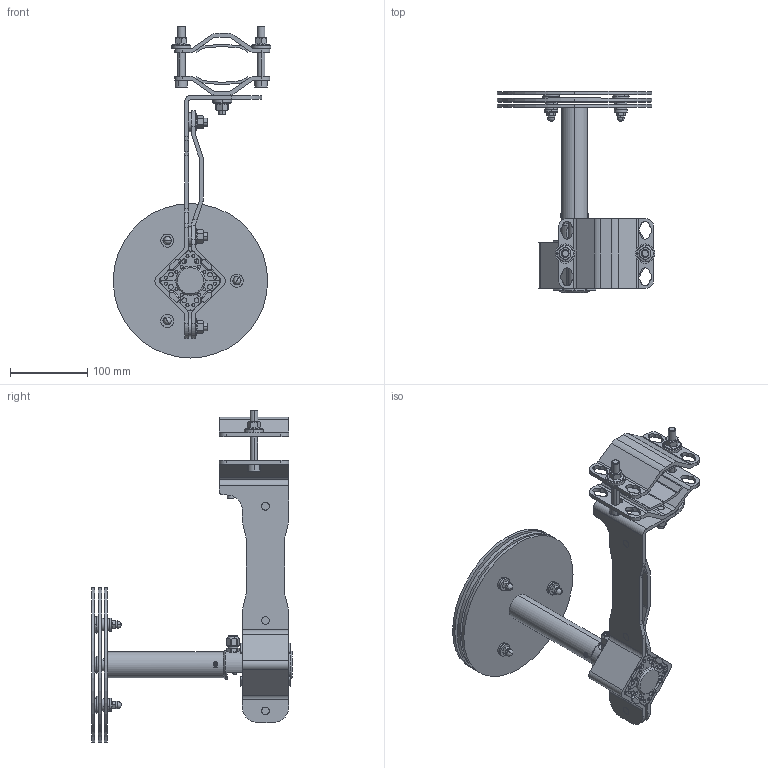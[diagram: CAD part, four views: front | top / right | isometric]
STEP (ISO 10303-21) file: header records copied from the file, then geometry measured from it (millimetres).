
FILE_DESCRIPTION (( 'STEP AP214' ), '1' );
FILE_NAME ('HFBRA.STEP', '2023-08-17T12:12:13', ( '' ), ( '' ), 'SwSTEP 2.0', 'SolidWorks 2023', '' );
FILE_SCHEMA (( 'AUTOMOTIVE_DESIGN' ));
Length unit declared in the file: millimetre
Products named in the file (36): HFSEN; BN 10342 M8x20x1.5; BLONGP; REARM; BN 635 M6; BLONG; GROH 9x11x4; HFBASE; VBRAR; BN 33021 M4x8; HF4; LABHF; BRARB; ORING 25.05x2.62; HFDISKS; BN 13289 M6x17x3; RUBWA; HFBRA; GLAND; BN 33010 M10; BN 611 M10x70; BN 1593 M3x5; BRARF; HFDISKP; REABK; BN 610 M10x40; BN 13289 M10x25x4; GROT 6x13.5x12; DAMPN; HFHEAD; CABLE; HFTDISK; REAFR; MICRUBB; BRASH; AVARM
Assembly tree (70 placements, depth 6):
  HFBRA
    HF4
      HFSEN
        HFBASE
          BLONGP
            BLONG
            ORING 25.05x2.62  x2
            BN 33021 M4x8  x2
            BN 1593 M3x5  x4
          LABHF
          ORING 25.05x2.62  x2
          MICRUBB
          CABLE
            GLAND
        HFHEAD
          HFTDISK
          GROH 9x11x4  x3
          GROT 6x13.5x12  x3
          HFDISKP
          HFDISKS
          RUBWA  x3
          BN 10342 M8x20x1.5  x3
          BN 635 M6  x3
          BN 13289 M6x17x3  x3
    AVARM
      VBRAR
        BRARF
        BN 33010 M10  x4
        BN 13289 M10x25x4  x4
        BRARB
        BN 611 M10x70  x2
        BN 610 M10x40  x2
        BRASH  x2
      REARM
        REABK
        DAMPN  x2
        BN 33010 M10  x3
        REAFR
        BN 13289 M10x25x4  x3
Bounding box: 204 x 260.2 x 429.8 mm (x, y, z)
Volume: 1070422 mm3; surface area: 534054.9 mm2
Topology: 69 solids, 70 shells, 2982 faces, 7629 edges, 4948 vertices
Faces by surface type: plane 1360, cylinder 654, bspline 595, cone 250, torus 109, sphere 14
Entity records: 118017 total; most frequent: CARTESIAN_POINT 47841, ORIENTED_EDGE 12318, DIRECTION 9506, EDGE_CURVE 6159, VERTEX_POINT 4058, LINE 3708, VECTOR 3708, AXIS2_PLACEMENT_3D 2899
